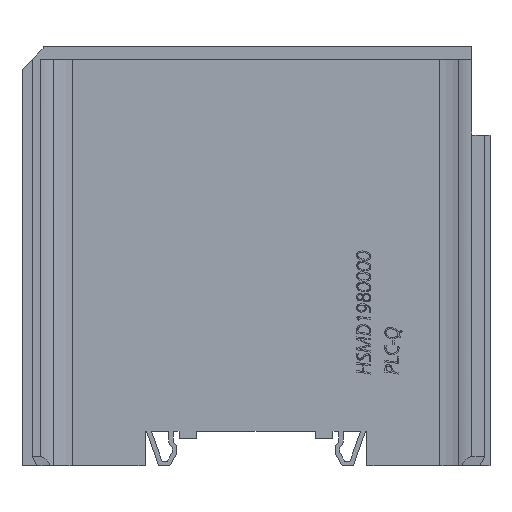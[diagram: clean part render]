
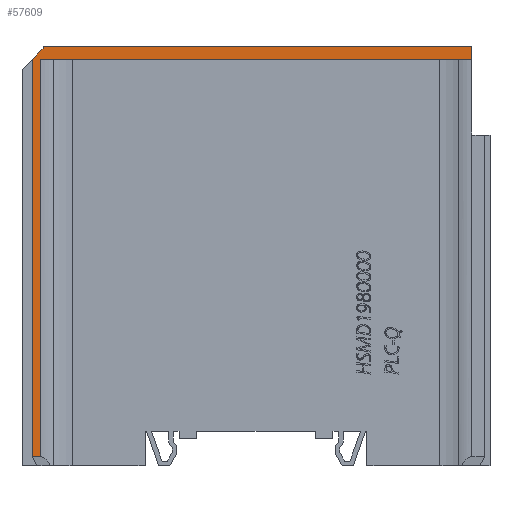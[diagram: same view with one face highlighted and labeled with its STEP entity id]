
A CAD part, left-side view. The second image highlights one B-rep face of the part: STEP entity #57609.
In plain terms, the highlighted planar face has unit normal (-1, 0, 0).
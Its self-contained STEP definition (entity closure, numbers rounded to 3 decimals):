
#2535=DIRECTION('',(0.,-1.,0.));
#2536=VECTOR('',#2535,92.191);
#2537=CARTESIAN_POINT('',(90.25,45.893,81.1));
#2538=LINE('',#2537,#2536);
#2539=DIRECTION('',(0.,0.,-1.));
#2540=VECTOR('',#2539,84.85);
#2541=CARTESIAN_POINT('',(90.25,47.65,81.05));
#2542=LINE('',#2541,#2540);
#2543=DIRECTION('',(0.,0.707,-0.707));
#2544=VECTOR('',#2543,3.323);
#2545=CARTESIAN_POINT('',(90.25,45.3,83.4));
#2546=LINE('',#2545,#2544);
#2547=DIRECTION('',(0.,0.,-1.));
#2548=VECTOR('',#2547,0.5);
#2549=CARTESIAN_POINT('',(90.25,45.3,83.9));
#2550=LINE('',#2549,#2548);
#2579=DIRECTION('',(0.,0.001,-1.));
#2580=VECTOR('',#2579,2.8);
#2581=CARTESIAN_POINT('',(90.25,-46.3,83.9));
#2582=LINE('',#2581,#2580);
#2615=DIRECTION('',(0.,-1.,0.));
#2616=VECTOR('',#2615,91.6);
#2617=CARTESIAN_POINT('',(90.25,45.3,83.9));
#2618=LINE('',#2617,#2616);
#2656=DIRECTION('',(0.,1.,0.));
#2657=VECTOR('',#2656,1.757);
#2658=CARTESIAN_POINT('',(90.25,45.893,-3.8));
#2659=LINE('',#2658,#2657);
#2703=DIRECTION('',(0.,0.,-1.));
#2704=VECTOR('',#2703,84.9);
#2705=CARTESIAN_POINT('',(90.25,45.893,81.1));
#2706=LINE('',#2705,#2704);
#43638=CARTESIAN_POINT('',(90.25,-46.3,83.9));
#43640=VERTEX_POINT('',#43638);
#43651=CARTESIAN_POINT('',(90.25,45.3,83.9));
#43653=VERTEX_POINT('',#43651);
#43663=CARTESIAN_POINT('',(90.25,45.3,83.4));
#43665=VERTEX_POINT('',#43663);
#43666=CARTESIAN_POINT('',(90.25,47.65,81.05));
#43668=VERTEX_POINT('',#43666);
#43679=CARTESIAN_POINT('',(90.25,47.65,-3.8));
#43681=VERTEX_POINT('',#43679);
#48431=CARTESIAN_POINT('',(90.25,45.893,81.1));
#48432=CARTESIAN_POINT('',(90.25,-46.298,81.1));
#48433=VERTEX_POINT('',#48431);
#48434=VERTEX_POINT('',#48432);
#48439=CARTESIAN_POINT('',(90.25,45.893,-3.8));
#48440=VERTEX_POINT('',#48439);
#57587=CARTESIAN_POINT('',(90.25,-50.2,-5.8));
#57588=DIRECTION('',(-1.,0.,0.));
#57589=DIRECTION('',(0.,0.,1.));
#57590=AXIS2_PLACEMENT_3D('',#57587,#57588,#57589);
#57591=PLANE('',#57590);
#57593=ORIENTED_EDGE('',*,*,#57592,.T.);
#57595=ORIENTED_EDGE('',*,*,#57594,.T.);
#57596=ORIENTED_EDGE('',*,*,#57558,.F.);
#57598=ORIENTED_EDGE('',*,*,#57597,.T.);
#57600=ORIENTED_EDGE('',*,*,#57599,.T.);
#57602=ORIENTED_EDGE('',*,*,#57601,.F.);
#57604=ORIENTED_EDGE('',*,*,#57603,.F.);
#57606=ORIENTED_EDGE('',*,*,#57605,.F.);
#57607=EDGE_LOOP('',(#57593,#57595,#57596,#57598,#57600,#57602,#57604,#57606));
#57608=FACE_OUTER_BOUND('',#57607,.F.);
#57558=EDGE_CURVE('',#48433,#48434,#2538,.T.);
#57592=EDGE_CURVE('',#43653,#43640,#2618,.T.);
#57594=EDGE_CURVE('',#43640,#48434,#2582,.T.);
#57597=EDGE_CURVE('',#48433,#48440,#2706,.T.);
#57599=EDGE_CURVE('',#48440,#43681,#2659,.T.);
#57601=EDGE_CURVE('',#43668,#43681,#2542,.T.);
#57603=EDGE_CURVE('',#43665,#43668,#2546,.T.);
#57605=EDGE_CURVE('',#43653,#43665,#2550,.T.);
#57609=ADVANCED_FACE('',(#57608),#57591,.T.);
